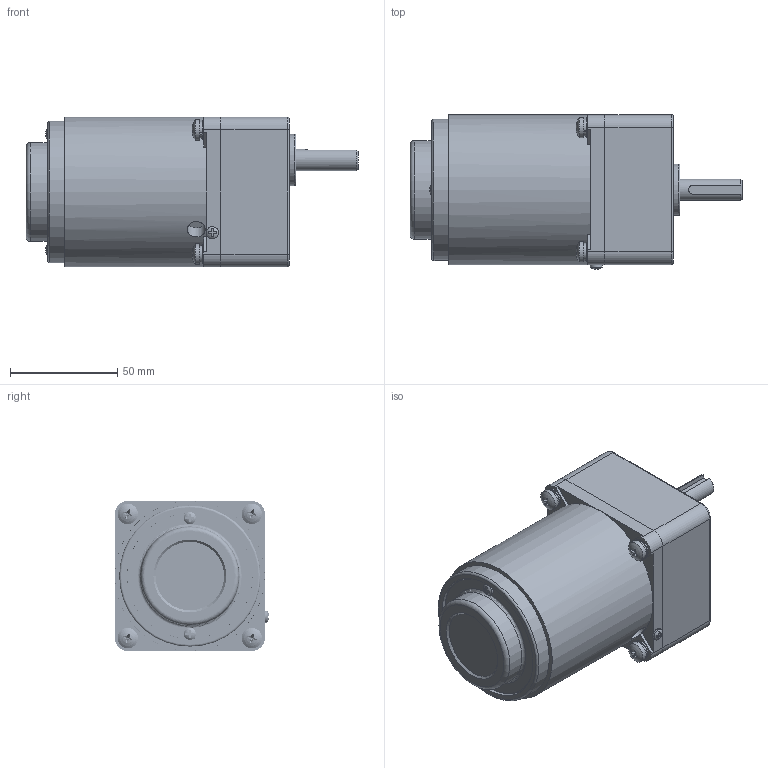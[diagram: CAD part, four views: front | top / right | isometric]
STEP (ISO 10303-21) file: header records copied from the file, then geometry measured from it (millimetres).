
FILE_DESCRIPTION(/* description */ (''),/* implementation_level */ '2;1');
FILE_NAME(/* name */ '70矮箱L-15W调速.stp',/* time_stamp */ '2022-10-31T09:04:56+08:00',/* author */ (''),/* organization */ (''),/* preprocessor_version */ 'ST-DEVELOPER v16.7',/* originating_system */ 'SIEMENS PLM Software NX 1899',/* authorisation */ '');
FILE_SCHEMA (('AP203_CONFIGURATION_CONTROLLED_3D_DESIGN_OF_MECHANICAL_PARTS_AND_ASSEMBLIES_MIM_LF { 1 0 10303 403 2 1 2}'));
Products named in the file (1): yf186188FEB6lc5t
Bounding box: 155 x 72.04 x 70 mm (x, y, z)
Volume: 485103.5 mm3; surface area: 59253.8 mm2
Topology: 14 solids, 17 shells, 343 faces, 856 edges, 565 vertices
Faces by surface type: plane 154, bspline 88, cylinder 71, torus 13, cone 10, sphere 7
Full cylindrical faces by diameter (mm): 2.7 x2, 4.826 x4, 5 x4, 5.3 x4, 5.6 x3, 6 x5, 8.3 x1, 9 x4, 9.5 x4, 10 x1, 24 x1, 37 x1, 46 x1, 58.6 x1, 60 x1, 63 x1, 66 x1, 66.6 x2, 70 x1
Entity records: 55663 total; most frequent: CARTESIAN_POINT 48138, ORIENTED_EDGE 1502, DIRECTION 1257, EDGE_CURVE 751, VERTEX_POINT 528, AXIS2_PLACEMENT_3D 515, EDGE_LOOP 451, ADVANCED_FACE 343
